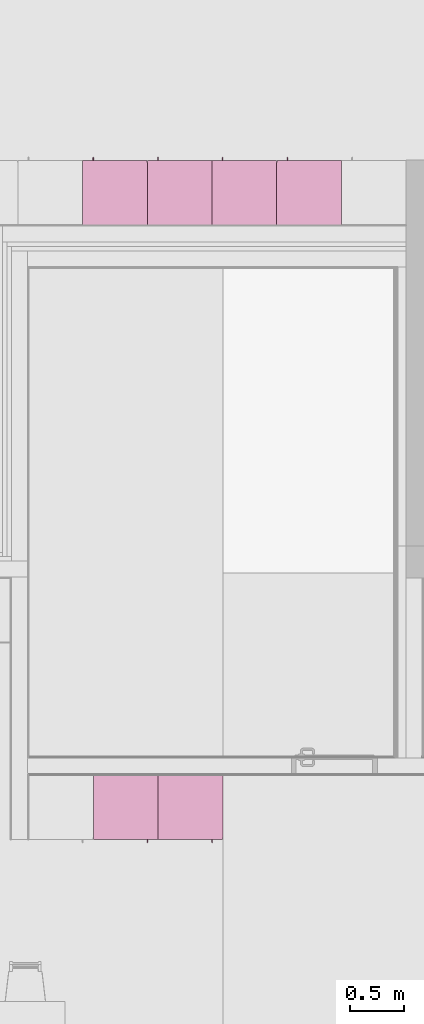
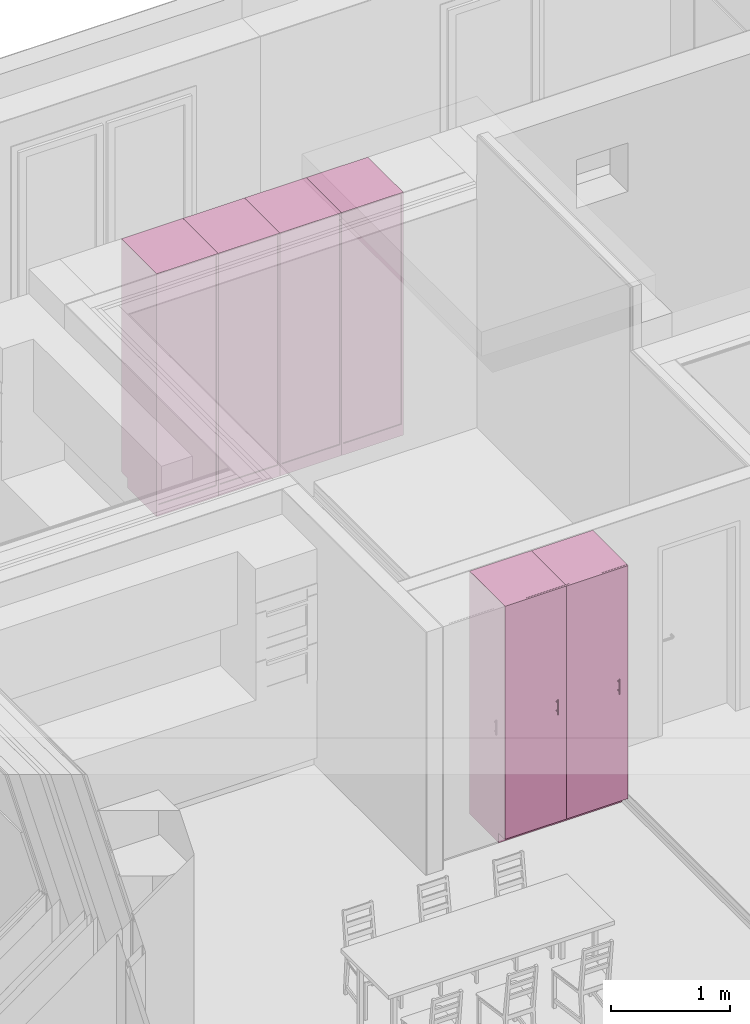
# One storey, part 32 of 34: 6 furniture elements.
"""IFC4 building model written with IfcOpenShell, lengths in millimetres."""

from ifc_helpers import new_model, entity, si_unit, converted_unit, derived_unit, direction, frame, origin_with_axes, place, context, subcontext, project, spatial, polygons, source, transform, mapped, type_object, element, save


model = new_model("IFC4")

# Units and contexts
model_context = context("Model", 3, precision=0.01, world=origin_with_axes(), true_north=direction((0.0, 1.0)))
body_context = subcontext(model_context, "Body", "Model", "MODEL_VIEW")
ifc_project = project(units=[si_unit("LENGTHUNIT", "METRE", prefix="MILLI"), si_unit("AREAUNIT", "SQUARE_METRE"), si_unit("VOLUMEUNIT", "CUBIC_METRE"), converted_unit("PLANEANGLEUNIT", "DEGREE", entity("IfcPlaneAngleMeasure", 0.0174532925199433), si_unit("PLANEANGLEUNIT", "RADIAN"), dimensions=[0, 0, 0, 0, 0, 0, 0]), converted_unit("TIMEUNIT", "Year", entity("IfcTimeMeasure", 31557600.0), si_unit("TIMEUNIT", "SECOND"), dimensions=[0, 0, 1, 0, 0, 0, 0]), si_unit("MASSUNIT", "GRAM", prefix="KILO"), si_unit("THERMODYNAMICTEMPERATUREUNIT", "DEGREE_CELSIUS"), si_unit("LUMINOUSINTENSITYUNIT", "LUMEN"), si_unit("ENERGYUNIT", "JOULE", prefix="MEGA"), derived_unit("THERMALCONDUCTANCEUNIT", [(si_unit("POWERUNIT", "WATT"), 1), (si_unit("LENGTHUNIT", "METRE"), -1), (si_unit("THERMODYNAMICTEMPERATUREUNIT", "KELVIN"), -1)]), derived_unit("SPECIFICHEATCAPACITYUNIT", [(si_unit("ENERGYUNIT", "JOULE"), 1), (si_unit("MASSUNIT", "GRAM", prefix="KILO"), -1), (si_unit("THERMODYNAMICTEMPERATUREUNIT", "KELVIN"), -1)]), derived_unit("MASSDENSITYUNIT", [(si_unit("MASSUNIT", "GRAM", prefix="KILO"), 1), (si_unit("VOLUMEUNIT", "CUBIC_METRE"), -1)])], contexts=[model_context])

# Site, building, storey
site_placement = place(None, origin_with_axes())
site = spatial("IfcSite", under=ifc_project, at=site_placement, Name="Gelände", CompositionType="ELEMENT")
building_placement = place(site_placement, origin_with_axes())
building = spatial("IfcBuilding", under=site, at=building_placement, Name="Gebäude", CompositionType="ELEMENT")
storey_placement = place(building_placement, frame((0.0, 0.0, 5799.999999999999), z_axis=(0.0, 0.0, 1.0), x_axis=(1.0, 0.0, 0.0)))
storey = spatial("IfcBuildingStorey", under=building, at=storey_placement, Name="2.OG", CompositionType="ELEMENT", Elevation=5800.0)

# Furniture
furniture_type = type_object("IfcFurnitureType", Name="Stehender Schrank Block 27", AssemblyPlace="NOTDEFINED", PredefinedType="NOTDEFINED")
shared_shape = source(origin_with_axes(), body_context, "Body", "Tessellation", [
    polygons([(501.8682408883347, -597.9999999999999, 1352.799038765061), (502.7101007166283, -597.9999999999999, 1352.573463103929), (503.4999999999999, -597.9999999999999, 1352.205127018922), (504.2139380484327, -597.9999999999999, 1351.705222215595), (504.8302222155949, -597.9999999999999, 1351.088938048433), (505.3301270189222, -597.9999999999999, 1350.375), (505.6984631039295, -597.9999999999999, 1349.585100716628), (505.924038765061, -597.9999999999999, 1348.743240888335), (506.0, -597.9999999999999, 1347.875), (505.924038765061, -597.9999999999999, 1347.006759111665), (505.6984631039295, -597.9999999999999, 1346.164899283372), (505.3301270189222, -597.9999999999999, 1345.375), (504.8302222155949, -597.9999999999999, 1344.661061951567), (504.2139380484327, -597.9999999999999, 1344.044777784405), (503.4999999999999, -597.9999999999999, 1343.544872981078), (502.7101007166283, -597.9999999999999, 1343.176536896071), (501.8682408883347, -597.9999999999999, 1342.950961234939), (501.0, -597.9999999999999, 1342.875), (500.1317591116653, -597.9999999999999, 1342.950961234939), (499.2898992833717, -597.9999999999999, 1343.176536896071), (498.5, -597.9999999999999, 1343.544872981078), (497.7860619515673, -597.9999999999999, 1344.044777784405), (497.1697777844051, -597.9999999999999, 1344.661061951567), (496.6698729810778, -597.9999999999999, 1345.375), (496.3015368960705, -597.9999999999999, 1346.164899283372), (496.075961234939, -597.9999999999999, 1347.006759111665), (496.0, -597.9999999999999, 1347.875), (496.075961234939, -597.9999999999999, 1348.743240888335), (496.3015368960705, -597.9999999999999, 1349.585100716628), (496.6698729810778, -597.9999999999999, 1350.375), (497.1697777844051, -597.9999999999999, 1351.088938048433), (497.7860619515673, -597.9999999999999, 1351.705222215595), (498.5, -597.9999999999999, 1352.205127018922), (499.2898992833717, -597.9999999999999, 1352.573463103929), (500.1317591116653, -597.9999999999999, 1352.799038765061), (501.0, -597.9999999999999, 1352.875), (501.8682408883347, -622.9999999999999, 1352.799038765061), (502.7101007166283, -622.9999999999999, 1352.573463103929), (503.4999999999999, -622.9999999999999, 1352.205127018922), (504.2139380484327, -622.9999999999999, 1351.705222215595), (504.8302222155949, -622.9999999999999, 1351.088938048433), (505.3301270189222, -622.9999999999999, 1350.375), (505.6984631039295, -622.9999999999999, 1349.585100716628), (505.924038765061, -622.9999999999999, 1348.743240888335), (506.0, -622.9999999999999, 1347.875), (505.924038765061, -622.9999999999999, 1347.006759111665), (505.6984631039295, -622.9999999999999, 1346.164899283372), (505.3301270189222, -622.9999999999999, 1345.375), (504.8302222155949, -622.9999999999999, 1344.661061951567), (504.2139380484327, -622.9999999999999, 1344.044777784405), (503.4999999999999, -622.9999999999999, 1343.544872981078), (502.7101007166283, -622.9999999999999, 1343.176536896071), (501.8682408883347, -622.9999999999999, 1342.950961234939), (501.0, -622.9999999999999, 1342.875), (500.1317591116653, -622.9999999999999, 1342.950961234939), (499.2898992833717, -622.9999999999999, 1343.176536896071), (498.5, -622.9999999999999, 1343.544872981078), (497.7860619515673, -622.9999999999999, 1344.044777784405), (497.1697777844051, -622.9999999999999, 1344.661061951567), (496.6698729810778, -622.9999999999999, 1345.375), (496.3015368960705, -622.9999999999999, 1346.164899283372), (496.075961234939, -622.9999999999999, 1347.006759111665), (496.0, -622.9999999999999, 1347.875), (496.075961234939, -622.9999999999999, 1348.743240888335), (496.3015368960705, -622.9999999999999, 1349.585100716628), (496.6698729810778, -622.9999999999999, 1350.375), (497.1697777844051, -622.9999999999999, 1351.088938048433), (497.7860619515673, -622.9999999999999, 1351.705222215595), (498.5, -622.9999999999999, 1352.205127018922), (499.2898992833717, -622.9999999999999, 1352.573463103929), (500.1317591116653, -622.9999999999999, 1352.799038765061), (501.0, -622.9999999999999, 1352.875)], [[[1, 2, 3, 4, 5, 6, 7, 8, 9, 10, 11, 12, 13, 14, 15, 16, 17, 18, 19, 20, 21, 22, 23, 24, 25, 26, 27, 28, 29, 30, 31, 32, 33, 34, 35, 36]], [[2, 1, 37, 38]], [[3, 2, 38, 39]], [[4, 3, 39, 40]], [[5, 4, 40, 41]], [[6, 5, 41, 42]], [[7, 6, 42, 43]], [[8, 7, 43, 44]], [[9, 8, 44, 45]], [[10, 9, 45, 46]], [[11, 10, 46, 47]], [[12, 11, 47, 48]], [[13, 12, 48, 49]], [[14, 13, 49, 50]], [[15, 14, 50, 51]], [[16, 15, 51, 52]], [[17, 16, 52, 53]], [[18, 17, 53, 54]], [[19, 18, 54, 55]], [[20, 19, 55, 56]], [[21, 20, 56, 57]], [[22, 21, 57, 58]], [[23, 22, 58, 59]], [[24, 23, 59, 60]], [[25, 24, 60, 61]], [[26, 25, 61, 62]], [[27, 26, 62, 63]], [[28, 27, 63, 64]], [[29, 28, 64, 65]], [[30, 29, 65, 66]], [[31, 30, 66, 67]], [[32, 31, 67, 68]], [[33, 32, 68, 69]], [[34, 33, 69, 70]], [[35, 34, 70, 71]], [[36, 35, 71, 72]], [[1, 36, 72, 37]], [[37, 72, 71, 70, 69, 68, 67, 66, 65, 64, 63, 62, 61, 60, 59, 58, 57, 56, 55, 54, 53, 52, 51, 50, 49, 48, 47, 46, 45, 44, 43, 42, 41, 40, 39, 38]]], closed=True),
    polygons([(501.8682408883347, -597.9999999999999, 1249.200961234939), (501.0, -597.9999999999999, 1249.125), (500.1317591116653, -597.9999999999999, 1249.200961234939), (499.2898992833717, -597.9999999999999, 1249.426536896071), (498.5, -597.9999999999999, 1249.794872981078), (497.7860619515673, -597.9999999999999, 1250.294777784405), (497.1697777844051, -597.9999999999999, 1250.911061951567), (496.6698729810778, -597.9999999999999, 1251.625), (496.3015368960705, -597.9999999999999, 1252.414899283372), (496.075961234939, -597.9999999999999, 1253.256759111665), (496.0, -597.9999999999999, 1254.125), (496.075961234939, -597.9999999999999, 1254.993240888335), (496.3015368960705, -597.9999999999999, 1255.835100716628), (496.6698729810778, -597.9999999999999, 1256.625), (497.1697777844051, -597.9999999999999, 1257.338938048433), (497.7860619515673, -597.9999999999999, 1257.955222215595), (498.5, -597.9999999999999, 1258.455127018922), (499.2898992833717, -597.9999999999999, 1258.823463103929), (500.1317591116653, -597.9999999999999, 1259.049038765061), (501.0, -597.9999999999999, 1259.125), (501.8682408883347, -597.9999999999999, 1259.049038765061), (502.7101007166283, -597.9999999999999, 1258.823463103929), (503.4999999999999, -597.9999999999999, 1258.455127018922), (504.2139380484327, -597.9999999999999, 1257.955222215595), (504.8302222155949, -597.9999999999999, 1257.338938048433), (505.3301270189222, -597.9999999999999, 1256.625), (505.6984631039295, -597.9999999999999, 1255.835100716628), (505.924038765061, -597.9999999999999, 1254.993240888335), (506.0, -597.9999999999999, 1254.125), (505.924038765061, -597.9999999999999, 1253.256759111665), (505.6984631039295, -597.9999999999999, 1252.414899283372), (505.3301270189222, -597.9999999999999, 1251.625), (504.8302222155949, -597.9999999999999, 1250.911061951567), (504.2139380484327, -597.9999999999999, 1250.294777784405), (503.4999999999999, -597.9999999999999, 1249.794872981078), (502.7101007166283, -597.9999999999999, 1249.426536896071), (501.8682408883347, -622.9999999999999, 1249.200961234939), (501.0, -622.9999999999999, 1249.125), (500.1317591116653, -622.9999999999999, 1249.200961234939), (499.2898992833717, -622.9999999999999, 1249.426536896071), (498.5, -622.9999999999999, 1249.794872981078), (497.7860619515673, -622.9999999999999, 1250.294777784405), (497.1697777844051, -622.9999999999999, 1250.911061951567), (496.6698729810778, -622.9999999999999, 1251.625), (496.3015368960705, -622.9999999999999, 1252.414899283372), (496.075961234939, -622.9999999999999, 1253.256759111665), (496.0, -622.9999999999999, 1254.125), (496.075961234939, -622.9999999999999, 1254.993240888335), (496.3015368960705, -622.9999999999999, 1255.835100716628), (496.6698729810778, -622.9999999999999, 1256.625), (497.1697777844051, -622.9999999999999, 1257.338938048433), (497.7860619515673, -622.9999999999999, 1257.955222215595), (498.5, -622.9999999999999, 1258.455127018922), (499.2898992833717, -622.9999999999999, 1258.823463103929), (500.1317591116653, -622.9999999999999, 1259.049038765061), (501.0, -622.9999999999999, 1259.125), (501.8682408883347, -622.9999999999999, 1259.049038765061), (502.7101007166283, -622.9999999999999, 1258.823463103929), (503.4999999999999, -622.9999999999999, 1258.455127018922), (504.2139380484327, -622.9999999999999, 1257.955222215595), (504.8302222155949, -622.9999999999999, 1257.338938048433), (505.3301270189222, -622.9999999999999, 1256.625), (505.6984631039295, -622.9999999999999, 1255.835100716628), (505.924038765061, -622.9999999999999, 1254.993240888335), (506.0, -622.9999999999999, 1254.125), (505.924038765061, -622.9999999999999, 1253.256759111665), (505.6984631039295, -622.9999999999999, 1252.414899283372), (505.3301270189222, -622.9999999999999, 1251.625), (504.8302222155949, -622.9999999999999, 1250.911061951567), (504.2139380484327, -622.9999999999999, 1250.294777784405), (503.4999999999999, -622.9999999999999, 1249.794872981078), (502.7101007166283, -622.9999999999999, 1249.426536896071)], [[[1, 2, 3, 4, 5, 6, 7, 8, 9, 10, 11, 12, 13, 14, 15, 16, 17, 18, 19, 20, 21, 22, 23, 24, 25, 26, 27, 28, 29, 30, 31, 32, 33, 34, 35, 36]], [[1, 37, 38, 2]], [[2, 38, 39, 3]], [[3, 39, 40, 4]], [[4, 40, 41, 5]], [[5, 41, 42, 6]], [[6, 42, 43, 7]], [[7, 43, 44, 8]], [[8, 44, 45, 9]], [[9, 45, 46, 10]], [[10, 46, 47, 11]], [[11, 47, 48, 12]], [[12, 48, 49, 13]], [[13, 49, 50, 14]], [[14, 50, 51, 15]], [[15, 51, 52, 16]], [[16, 52, 53, 17]], [[17, 53, 54, 18]], [[18, 54, 55, 19]], [[19, 55, 56, 20]], [[20, 56, 57, 21]], [[21, 57, 58, 22]], [[22, 58, 59, 23]], [[23, 59, 60, 24]], [[24, 60, 61, 25]], [[25, 61, 62, 26]], [[26, 62, 63, 27]], [[27, 63, 64, 28]], [[28, 64, 65, 29]], [[29, 65, 66, 30]], [[30, 66, 67, 31]], [[31, 67, 68, 32]], [[32, 68, 69, 33]], [[33, 69, 70, 34]], [[34, 70, 71, 35]], [[35, 71, 72, 36]], [[36, 72, 37, 1]], [[37, 72, 71, 70, 69, 68, 67, 66, 65, 64, 63, 62, 61, 60, 59, 58, 57, 56, 55, 54, 53, 52, 51, 50, 49, 48, 47, 46, 45, 44, 43, 42, 41, 40, 39, 38]]], closed=True),
    polygons([(501.8682408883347, -618.0759612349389, 1226.0), (502.7101007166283, -618.3015368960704, 1226.0), (503.4999999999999, -618.6698729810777, 1226.0), (504.2139380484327, -619.1697777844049, 1226.0), (504.8302222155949, -619.7860619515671, 1226.0), (505.3301270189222, -620.4999999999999, 1226.0), (505.6984631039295, -621.2898992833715, 1226.0), (505.924038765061, -622.1317591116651, 1226.0), (506.0, -622.9999999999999, 1226.0), (505.924038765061, -623.8682408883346, 1226.0), (505.6984631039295, -624.7101007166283, 1226.0), (505.3301270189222, -625.4999999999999, 1226.0), (504.8302222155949, -626.2139380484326, 1226.0), (504.2139380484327, -626.8302222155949, 1226.0), (503.4999999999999, -627.3301270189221, 1226.0), (502.7101007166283, -627.6984631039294, 1226.0), (501.8682408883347, -627.924038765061, 1226.0), (501.0, -627.9999999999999, 1226.0), (500.1317591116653, -627.924038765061, 1226.0), (499.2898992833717, -627.6984631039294, 1226.0), (498.5, -627.3301270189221, 1226.0), (497.7860619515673, -626.8302222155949, 1226.0), (497.1697777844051, -626.2139380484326, 1226.0), (496.6698729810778, -625.4999999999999, 1226.0), (496.3015368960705, -624.7101007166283, 1226.0), (496.075961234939, -623.8682408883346, 1226.0), (496.0, -622.9999999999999, 1226.0), (496.075961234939, -622.1317591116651, 1226.0), (496.3015368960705, -621.2898992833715, 1226.0), (496.6698729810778, -620.4999999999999, 1226.0), (497.1697777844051, -619.7860619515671, 1226.0), (497.7860619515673, -619.1697777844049, 1226.0), (498.5, -618.6698729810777, 1226.0), (499.2898992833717, -618.3015368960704, 1226.0), (500.1317591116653, -618.0759612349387, 1226.0), (501.0, -617.9999999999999, 1226.0), (501.8682408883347, -618.0759612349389, 1376.0), (502.7101007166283, -618.3015368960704, 1376.0), (503.5000000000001, -618.6698729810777, 1376.0), (504.2139380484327, -619.1697777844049, 1376.0), (504.8302222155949, -619.7860619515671, 1376.0), (505.3301270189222, -620.4999999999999, 1376.0), (505.6984631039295, -621.2898992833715, 1376.0), (505.9240387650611, -622.1317591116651, 1376.0), (506.0, -622.9999999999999, 1376.0), (505.9240387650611, -623.8682408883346, 1376.0), (505.6984631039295, -624.7101007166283, 1376.0), (505.3301270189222, -625.4999999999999, 1376.0), (504.8302222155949, -626.2139380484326, 1376.0), (504.2139380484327, -626.8302222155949, 1376.0), (503.5000000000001, -627.3301270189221, 1376.0), (502.7101007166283, -627.6984631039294, 1376.0), (501.8682408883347, -627.924038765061, 1376.0), (501.0, -627.9999999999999, 1376.0), (500.1317591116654, -627.924038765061, 1376.0), (499.2898992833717, -627.6984631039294, 1376.0), (498.5, -627.3301270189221, 1376.0), (497.7860619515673, -626.8302222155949, 1376.0), (497.1697777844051, -626.2139380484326, 1376.0), (496.6698729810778, -625.4999999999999, 1376.0), (496.3015368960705, -624.7101007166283, 1376.0), (496.075961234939, -623.8682408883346, 1376.0), (496.0, -622.9999999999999, 1376.0), (496.075961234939, -622.1317591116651, 1376.0), (496.3015368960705, -621.2898992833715, 1376.0), (496.6698729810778, -620.4999999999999, 1376.0), (497.1697777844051, -619.7860619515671, 1376.0), (497.7860619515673, -619.1697777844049, 1376.0), (498.5, -618.6698729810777, 1376.0), (499.2898992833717, -618.3015368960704, 1376.0), (500.1317591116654, -618.0759612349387, 1376.0), (501.0, -617.9999999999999, 1376.0)], [[[1, 2, 3, 4, 5, 6, 7, 8, 9, 10, 11, 12, 13, 14, 15, 16, 17, 18, 19, 20, 21, 22, 23, 24, 25, 26, 27, 28, 29, 30, 31, 32, 33, 34, 35, 36]], [[2, 1, 37, 38]], [[3, 2, 38, 39]], [[4, 3, 39, 40]], [[5, 4, 40, 41]], [[6, 5, 41, 42]], [[7, 6, 42, 43]], [[8, 7, 43, 44]], [[9, 8, 44, 45]], [[10, 9, 45, 46]], [[11, 10, 46, 47]], [[12, 11, 47, 48]], [[13, 12, 48, 49]], [[14, 13, 49, 50]], [[15, 14, 50, 51]], [[16, 15, 51, 52]], [[17, 16, 52, 53]], [[18, 17, 53, 54]], [[19, 18, 54, 55]], [[20, 19, 55, 56]], [[21, 20, 56, 57]], [[22, 21, 57, 58]], [[23, 22, 58, 59]], [[24, 23, 59, 60]], [[25, 24, 60, 61]], [[26, 25, 61, 62]], [[27, 26, 62, 63]], [[28, 27, 63, 64]], [[29, 28, 64, 65]], [[30, 29, 65, 66]], [[31, 30, 66, 67]], [[32, 31, 67, 68]], [[33, 32, 68, 69]], [[34, 33, 69, 70]], [[35, 34, 70, 71]], [[36, 35, 71, 72]], [[1, 36, 72, 37]], [[37, 72, 71, 70, 69, 68, 67, 66, 65, 64, 63, 62, 61, 60, 59, 58, 57, 56, 55, 54, 53, 52, 51, 50, 49, 48, 47, 46, 45, 44, 43, 42, 41, 40, 39, 38]]], closed=True),
    polygons([(1.0, -580.0, 101.0), (599.0, -580.0, 101.0), (599.0, -598.0, 101.0), (1.0, -598.0, 101.0), (1.0, -579.9999999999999, 2499.0), (599.0, -579.9999999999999, 2499.0), (599.0, -597.9999999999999, 2499.0), (1.0, -597.9999999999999, 2499.0)], [[[1, 2, 3, 4]], [[1, 5, 6, 2]], [[2, 6, 7, 3]], [[4, 3, 7, 8]], [[5, 1, 4, 8]], [[6, 5, 8, 7]]], closed=True),
    polygons([(18.0, -580.0, 100.0), (582.0, -580.0, 100.0), (582.0, -580.0, 118.0), (18.0, -580.0, 118.0), (18.0, 0.0, 100.0), (582.0, 0.0, 100.0), (582.0, 0.0, 118.0), (18.0, 0.0, 118.0)], [[[1, 2, 3, 4]], [[1, 5, 6, 2]], [[2, 6, 7, 3]], [[4, 3, 7, 8]], [[5, 1, 4, 8]], [[6, 5, 8, 7]]], closed=True),
    polygons([(18.0, -580.0, 2482.0), (582.0, -580.0, 2482.0), (582.0, -580.0, 2500.0), (18.0, -580.0, 2500.0), (18.0, 0.0, 2482.0), (582.0, 0.0, 2482.0), (582.0, 0.0, 2500.0), (18.0, 0.0, 2500.0)], [[[1, 2, 3, 4]], [[1, 5, 6, 2]], [[2, 6, 7, 3]], [[4, 3, 7, 8]], [[5, 1, 4, 8]], [[6, 5, 8, 7]]], closed=True),
    polygons([(0.0, 0.0, 100.0), (0.0, -580.0, 100.0), (0.0, -580.0, 2500.0), (0.0, 0.0, 2500.0), (18.0, 0.0, 100.0), (18.0, -580.0, 100.0), (18.0, -580.0, 2500.0), (18.0, 0.0, 2500.0)], [[[1, 2, 3, 4]], [[1, 5, 6, 2]], [[2, 6, 7, 3]], [[4, 3, 7, 8]], [[5, 1, 4, 8]], [[6, 5, 8, 7]]], closed=True),
    polygons([(600.0, -580.0, 100.0), (600.0, 0.0, 100.0), (600.0, 0.0, 2500.0), (600.0, -580.0, 2500.0), (582.0, -580.0, 100.0), (582.0, 0.0, 100.0), (582.0, 0.0, 2500.0), (582.0, -580.0, 2500.0)], [[[1, 2, 3, 4]], [[1, 5, 6, 2]], [[2, 6, 7, 3]], [[4, 3, 7, 8]], [[5, 1, 4, 8]], [[6, 5, 8, 7]]], closed=True),
    polygons([(582.0, -9.0, 118.0), (18.00000000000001, -9.0, 118.0), (18.00000000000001, -9.0, 2482.0), (582.0, -9.0, 2482.0), (582.0, -18.0, 118.0), (18.00000000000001, -18.0, 118.0), (18.00000000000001, -18.0, 2482.0), (582.0, -18.0, 2482.0)], [[[1, 2, 3, 4]], [[1, 5, 6, 2]], [[2, 6, 7, 3]], [[4, 3, 7, 8]], [[5, 1, 4, 8]], [[6, 5, 8, 7]]], closed=True),
    polygons([(0.0, -490.0, 0.0), (600.0, -490.0, 0.0), (600.0, -490.0, 100.0), (0.0, -490.0, 100.0), (0.0, 0.0, 0.0), (600.0, 0.0, 0.0), (600.0, 0.0, 100.0), (0.0, 0.0, 100.0)], [[[1, 2, 3, 4]], [[1, 5, 6, 2]], [[2, 6, 7, 3]], [[4, 3, 7, 8]], [[5, 1, 4, 8]], [[6, 5, 8, 7]]], closed=True),
])
for number, where, z_axis, x_axis in (
    (1, (9028.997444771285, 29747.59728131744, 150.0000000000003), (0.0, 0.0, 1.0), (1.0, 0.0, 0.0)),
    (2, (9628.997444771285, 29747.59728131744, 150.0000000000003), (0.0, 0.0, 1.0), (1.0, 0.0, 0.0)),
    (3, (11328.99744477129, 34847.59728131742, 150.0000000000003), (0.0, 0.0, 1.0), (-1.0, 0.0, 0.0)),
    (4, (10728.99744477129, 34847.59728131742, 150.0000000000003), (0.0, 0.0, 1.0), (-1.0, 0.0, 0.0)),
    (5, (10128.99744477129, 34847.59728131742, 150.0000000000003), (0.0, 0.0, 1.0), (-1.0, 0.0, 0.0)),
    (6, (9528.997444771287, 34847.59728131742, 150.0000000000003), (0.0, 0.0, 1.0), (-1.0, 0.0, 0.0)),
):
    element("IfcFurniture", number, at=place(storey_placement, frame(where, z_axis=z_axis, x_axis=x_axis)), inside=storey, type_object=furniture_type, Name="Möbel-021", PredefinedType="NOTDEFINED", context=body_context, shape_type="MappedRepresentation", body=[
        mapped(shared_shape, transform((0.0, 0.0, 0.0))),
    ])

save(model, "model.ifc")
